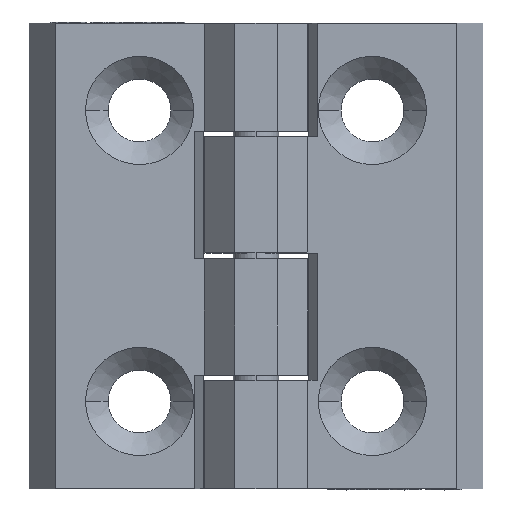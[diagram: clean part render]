
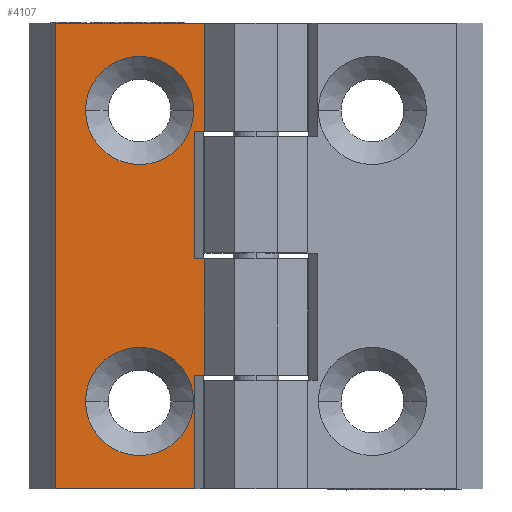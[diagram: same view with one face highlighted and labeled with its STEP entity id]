
A CAD part, top view. The second image highlights one B-rep face of the part: STEP entity #4107.
In plain terms, the highlighted planar face has unit normal (0, 0, 1).
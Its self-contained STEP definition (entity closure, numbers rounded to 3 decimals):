
#115 = CARTESIAN_POINT ( 'NONE',  ( -17.255, 40., 0.245 ) ) ;
#211 = CARTESIAN_POINT ( 'NONE',  ( -10., 32.5, 0.245 ) ) ;
#339 = VECTOR ( 'NONE', #5499, 1000. ) ;
#434 = VECTOR ( 'NONE', #4521, 1000. ) ;
#446 = CARTESIAN_POINT ( 'NONE',  ( -5.263, 30.7, 0.245 ) ) ;
#505 = DIRECTION ( 'NONE',  ( 0., 0., 1. ) ) ;
#613 = VECTOR ( 'NONE', #4625, 1000. ) ;
#638 = EDGE_CURVE ( 'NONE', #7248, #3502, #5232, .T. ) ;
#706 = LINE ( 'NONE', #4171, #2322 ) ;
#836 = DIRECTION ( 'NONE',  ( 1., 0., 0. ) ) ;
#970 = CARTESIAN_POINT ( 'NONE',  ( -17.255, 40., 0.245 ) ) ;
#975 = CIRCLE ( 'NONE', #4441, 4.65 ) ;
#1019 = CARTESIAN_POINT ( 'NONE',  ( -17.255, 40., 0.245 ) ) ;
#1058 = DIRECTION ( 'NONE',  ( 0., 0., 1. ) ) ;
#1073 = VERTEX_POINT ( 'NONE', #115 ) ;
#1168 = EDGE_CURVE ( 'NONE', #7575, #7244, #3572, .T. ) ;
#1197 = FACE_BOUND ( 'NONE', #5154, .T. ) ;
#1311 = EDGE_CURVE ( 'NONE', #7282, #7244, #3663, .T. ) ;
#1388 = DIRECTION ( 'NONE',  ( 1., 0., 0. ) ) ;
#1487 = ORIENTED_EDGE ( 'NONE', *, *, #2241, .F. ) ;
#1499 = CARTESIAN_POINT ( 'NONE',  ( -4.455, 19.75, 0.245 ) ) ;
#1506 = EDGE_LOOP ( 'NONE', ( #2021, #5414, #3003, #3360, #6952, #3122, #3937, #1487, #2365, #7159 ) ) ;
#1580 = PLANE ( 'NONE',  #3006 ) ;
#1716 = CARTESIAN_POINT ( 'NONE',  ( -5.263, 0., 0.245 ) ) ;
#1959 = CARTESIAN_POINT ( 'NONE',  ( -4.455, 19.75, 0.245 ) ) ;
#1972 = EDGE_CURVE ( 'NONE', #4181, #4501, #2436, .T. ) ;
#1993 = DIRECTION ( 'NONE',  ( 0., 0., 1. ) ) ;
#2021 = ORIENTED_EDGE ( 'NONE', *, *, #1311, .F. ) ;
#2024 = CIRCLE ( 'NONE', #3797, 4.65 ) ;
#2040 = VECTOR ( 'NONE', #2833, 1000. ) ;
#2076 = CARTESIAN_POINT ( 'NONE',  ( -4.455, 30.7, 0.245 ) ) ;
#2193 = DIRECTION ( 'NONE',  ( 0., 0., -1. ) ) ;
#2227 = CARTESIAN_POINT ( 'NONE',  ( -17.255, 0., 0.245 ) ) ;
#2241 = EDGE_CURVE ( 'NONE', #2913, #3502, #706, .T. ) ;
#2322 = VECTOR ( 'NONE', #7758, 1000. ) ;
#2365 = ORIENTED_EDGE ( 'NONE', *, *, #4672, .T. ) ;
#2436 = CIRCLE ( 'NONE', #2634, 4.65 ) ;
#2493 = EDGE_CURVE ( 'NONE', #6497, #4642, #2024, .T. ) ;
#2555 = CARTESIAN_POINT ( 'NONE',  ( -5.263, 19.75, 0.245 ) ) ;
#2634 = AXIS2_PLACEMENT_3D ( 'NONE', #5608, #1993, #1388 ) ;
#2656 = CARTESIAN_POINT ( 'NONE',  ( -4.455, 40., 0.245 ) ) ;
#2686 = EDGE_CURVE ( 'NONE', #4501, #4181, #975, .T. ) ;
#2833 = DIRECTION ( 'NONE',  ( 1., 0., 0. ) ) ;
#2880 = LINE ( 'NONE', #2656, #4281 ) ;
#2894 = CARTESIAN_POINT ( 'NONE',  ( -4.455, 30.7, 0.245 ) ) ;
#2913 = VERTEX_POINT ( 'NONE', #1959 ) ;
#2975 = VECTOR ( 'NONE', #6434, 1000. ) ;
#3003 = ORIENTED_EDGE ( 'NONE', *, *, #4807, .F. ) ;
#3006 = AXIS2_PLACEMENT_3D ( 'NONE', #970, #2193, #6406 ) ;
#3059 = CARTESIAN_POINT ( 'NONE',  ( -4.455, 9.75, 0.245 ) ) ;
#3122 = ORIENTED_EDGE ( 'NONE', *, *, #5778, .F. ) ;
#3360 = ORIENTED_EDGE ( 'NONE', *, *, #5460, .T. ) ;
#3394 = ORIENTED_EDGE ( 'NONE', *, *, #1972, .F. ) ;
#3434 = CARTESIAN_POINT ( 'NONE',  ( -5.35, 7.5, 0.245 ) ) ;
#3502 = VERTEX_POINT ( 'NONE', #3059 ) ;
#3572 = LINE ( 'NONE', #4048, #339 ) ;
#3663 = LINE ( 'NONE', #2076, #434 ) ;
#3692 = CARTESIAN_POINT ( 'NONE',  ( -4.455, 40., 0.245 ) ) ;
#3797 = AXIS2_PLACEMENT_3D ( 'NONE', #211, #4444, #836 ) ;
#3937 = ORIENTED_EDGE ( 'NONE', *, *, #638, .T. ) ;
#4048 = CARTESIAN_POINT ( 'NONE',  ( -5.263, 14.981, 0.245 ) ) ;
#4107 = ADVANCED_FACE ( 'NONE', ( #4413, #1197, #4225 ), #1580, .F. ) ;
#4138 = CARTESIAN_POINT ( 'NONE',  ( -10., 7.5, 0.245 ) ) ;
#4171 = CARTESIAN_POINT ( 'NONE',  ( -4.455, 40., 0.245 ) ) ;
#4181 = VERTEX_POINT ( 'NONE', #3434 ) ;
#4212 = LINE ( 'NONE', #1499, #5626 ) ;
#4225 = FACE_OUTER_BOUND ( 'NONE', #1506, .T. ) ;
#4239 = CARTESIAN_POINT ( 'NONE',  ( -17.255, 9.75, 0.245 ) ) ;
#4281 = VECTOR ( 'NONE', #7456, 1000. ) ;
#4287 = LINE ( 'NONE', #5329, #6092 ) ;
#4413 = FACE_BOUND ( 'NONE', #7185, .T. ) ;
#4441 = AXIS2_PLACEMENT_3D ( 'NONE', #4138, #505, #4733 ) ;
#4444 = DIRECTION ( 'NONE',  ( 0., 0., 1. ) ) ;
#4501 = VERTEX_POINT ( 'NONE', #4828 ) ;
#4513 = DIRECTION ( 'NONE',  ( 0., -1., 0. ) ) ;
#4521 = DIRECTION ( 'NONE',  ( -1., 0., 0. ) ) ;
#4625 = DIRECTION ( 'NONE',  ( 1., 0., 0. ) ) ;
#4642 = VERTEX_POINT ( 'NONE', #7469 ) ;
#4671 = CARTESIAN_POINT ( 'NONE',  ( -10., 32.5, 0.245 ) ) ;
#4672 = EDGE_CURVE ( 'NONE', #2913, #7575, #4212, .T. ) ;
#4733 = DIRECTION ( 'NONE',  ( 1., 0., 0. ) ) ;
#4807 = EDGE_CURVE ( 'NONE', #1073, #6259, #5427, .T. ) ;
#4819 = AXIS2_PLACEMENT_3D ( 'NONE', #4671, #1058, #5282 ) ;
#4828 = CARTESIAN_POINT ( 'NONE',  ( -14.65, 7.5, 0.245 ) ) ;
#5148 = CIRCLE ( 'NONE', #4819, 4.65 ) ;
#5154 = EDGE_LOOP ( 'NONE', ( #7383, #5701 ) ) ;
#5232 = LINE ( 'NONE', #4239, #613 ) ;
#5281 = CARTESIAN_POINT ( 'NONE',  ( -5.263, 9.75, 0.245 ) ) ;
#5282 = DIRECTION ( 'NONE',  ( 1., 0., 0. ) ) ;
#5329 = CARTESIAN_POINT ( 'NONE',  ( -17.255, 40., 0.245 ) ) ;
#5330 = EDGE_CURVE ( 'NONE', #4642, #6497, #5148, .T. ) ;
#5414 = ORIENTED_EDGE ( 'NONE', *, *, #5710, .F. ) ;
#5420 = VERTEX_POINT ( 'NONE', #1716 ) ;
#5427 = LINE ( 'NONE', #1019, #2040 ) ;
#5460 = EDGE_CURVE ( 'NONE', #1073, #6800, #4287, .T. ) ;
#5499 = DIRECTION ( 'NONE',  ( 0., 1., 0. ) ) ;
#5608 = CARTESIAN_POINT ( 'NONE',  ( -10., 7.5, 0.245 ) ) ;
#5626 = VECTOR ( 'NONE', #6350, 1000. ) ;
#5701 = ORIENTED_EDGE ( 'NONE', *, *, #5330, .F. ) ;
#5710 = EDGE_CURVE ( 'NONE', #6259, #7282, #2880, .T. ) ;
#5763 = EDGE_CURVE ( 'NONE', #6800, #5420, #7571, .T. ) ;
#5778 = EDGE_CURVE ( 'NONE', #7248, #5420, #5983, .T. ) ;
#5983 = LINE ( 'NONE', #7639, #6181 ) ;
#6092 = VECTOR ( 'NONE', #7745, 1000. ) ;
#6181 = VECTOR ( 'NONE', #4513, 1000. ) ;
#6259 = VERTEX_POINT ( 'NONE', #3692 ) ;
#6350 = DIRECTION ( 'NONE',  ( -1., 0., 0. ) ) ;
#6365 = CARTESIAN_POINT ( 'NONE',  ( -5.35, 32.5, 0.245 ) ) ;
#6406 = DIRECTION ( 'NONE',  ( -1., 0., 0. ) ) ;
#6434 = DIRECTION ( 'NONE',  ( 1., 0., 0. ) ) ;
#6497 = VERTEX_POINT ( 'NONE', #6365 ) ;
#6800 = VERTEX_POINT ( 'NONE', #6982 ) ;
#6952 = ORIENTED_EDGE ( 'NONE', *, *, #5763, .T. ) ;
#6976 = ORIENTED_EDGE ( 'NONE', *, *, #2686, .F. ) ;
#6982 = CARTESIAN_POINT ( 'NONE',  ( -17.255, 0., 0.245 ) ) ;
#7159 = ORIENTED_EDGE ( 'NONE', *, *, #1168, .T. ) ;
#7185 = EDGE_LOOP ( 'NONE', ( #3394, #6976 ) ) ;
#7244 = VERTEX_POINT ( 'NONE', #446 ) ;
#7248 = VERTEX_POINT ( 'NONE', #5281 ) ;
#7282 = VERTEX_POINT ( 'NONE', #2894 ) ;
#7383 = ORIENTED_EDGE ( 'NONE', *, *, #2493, .F. ) ;
#7456 = DIRECTION ( 'NONE',  ( 0., -1., 0. ) ) ;
#7469 = CARTESIAN_POINT ( 'NONE',  ( -14.65, 32.5, 0.245 ) ) ;
#7571 = LINE ( 'NONE', #2227, #2975 ) ;
#7575 = VERTEX_POINT ( 'NONE', #2555 ) ;
#7639 = CARTESIAN_POINT ( 'NONE',  ( -5.263, 15.745, 0.245 ) ) ;
#7745 = DIRECTION ( 'NONE',  ( 0., -1., 0. ) ) ;
#7758 = DIRECTION ( 'NONE',  ( 0., -1., 0. ) ) ;
